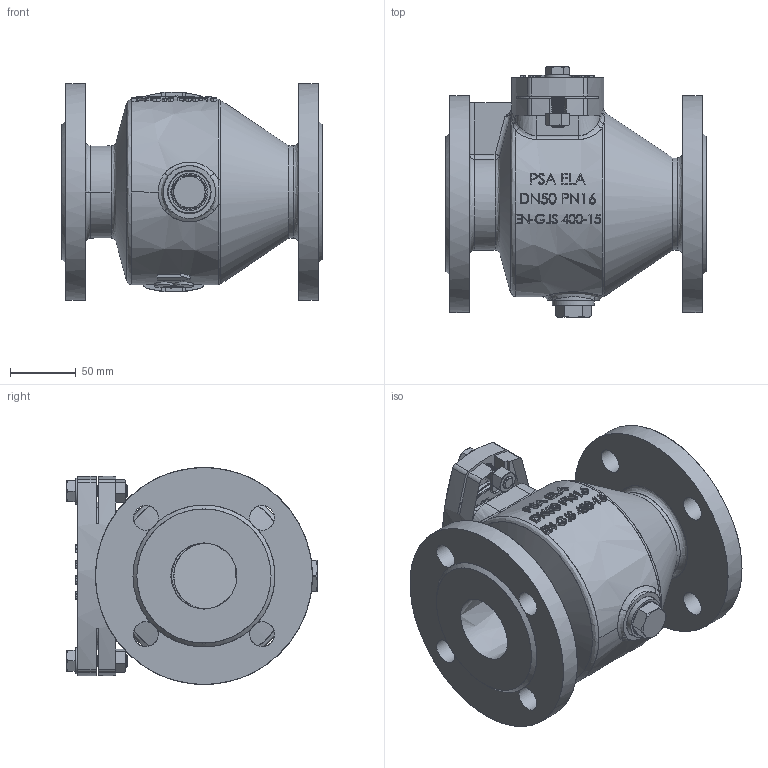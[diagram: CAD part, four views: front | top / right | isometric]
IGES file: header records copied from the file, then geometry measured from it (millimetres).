
Start section: P
Global section: file name: PSA ELA DN50 PN16.igs; native system: By Siemens PLM Incorporated; preprocessor: XPlus GENERIC/IGES 25.1.153; author: Christin-Michelle Fremgen; organization: PSA Wasserarmaturen GmbH; date: 20241016.115727; units: millimetre
Bounding box: 198 x 190.59 x 164.87 mm (x, y, z)
Surface area: 312547.6 mm2 (no closed solid volume)
Topology: 0 solids, 0 shells, 1485 faces, 8201 edges, 8186 vertices
Faces by surface type: bspline 1485
